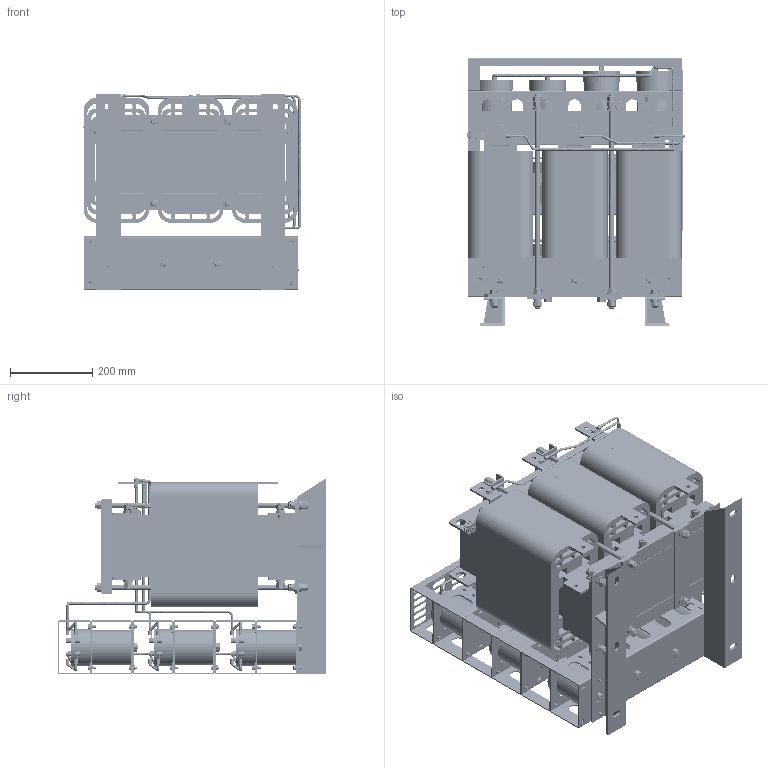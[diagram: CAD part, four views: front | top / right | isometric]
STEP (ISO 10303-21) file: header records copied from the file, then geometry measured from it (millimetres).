
FILE_DESCRIPTION(('STEP AP203'), '1');
FILE_NAME('蔓躅漤铋 耔眢耥 翳朦蝠 _ ISINOF-280_340-6', '', ('UNSPECIFIED'), ('UNSPECIFIED'), 'C3D Converter', 'C3D Toolkit', '');
FILE_SCHEMA(('CONFIG_CONTROL_DESIGN'));
Length unit declared in the file: millimetre
Products named in the file (52): ISINOF-280/340-6; L1 L2 L3МщЦЅ; L1ЎЇ L2Ўｮ L3ЎЇМщЦЅ; M12x210; M12x520; RNB14-6S; UРНС№Мх 50x25x4; 吒X2\0425\X0\86-125; 吒X2\0425\X0\86-145; 琵X2\04270405041504230422\X0\; 琵X2\04270405041504270443\X0\; 琵X2\0428\X0\崤X2\043A\X0\; 琵X2\04370418042D0426\X0\吭X2\04560415\X0\; 愧X2\0437\X0\琵X2\0410\X0\ іЕМх; №么X2\04270426041C0445\X0\12x10x260; ї琵X2\041E\X0\做зЧУKV223-2P; А降еМх450-80-2; А降еМх琵X2\0436\X0\豹X2\0435\X0\80-98-2; ДЪДёЕЕ40x5; ЖЅ豹X2\043504560415\X0\豹X2\0435\X0\ 12X30X260; ЖЅ豹X2\043504560415\X0\豹X2\0435\X0\20X50X260; ИэПаМъРѕ440-450-136; ЙПјРјю-560ЎБ80ЎБ6; НвДёЕЕ40x5; ПВјРјю490ЎБ80ЎБ40; ПВјРјю-490ЎБ80ЎБ40 јУЅУ琵X2\042804570427\X0\; С№豹X2\0435\X0\; ПЯИ¦340A; plain washers--product grade c gb_GB_FASTENER_WASHER_SMWC 12; spring lock washers--normal type gb_GB_FASTENER_WASHER_SW 12; hexagon nuts grade c gb_GB_FASTENER_NUT_SNC1 M12-N; hex head bolts-full thread grade c gb_GB_FASTENER_BOLT_HHBFTC M12X35-N; plain washers--product grade c gb_GB_FASTENER_WASHER_SMWC 6; hex head bolts-full thread grade c gb_GB_FASTENER_BOLT_HHBFTC M6X12-N; spring lock washers--normal type gb_GB_FASTENER_WASHER_SW 6; hexagon nuts grade c gb_GB_FASTENER_NUT_SNC1 M6-N; hex head bolts-full thread grade c gb_GB_FASTENER_BOLT_HHBFTC M6X20-N; Cable_3-ИэПаХэПТІЁВЛІЁЖчSKS-SF-0340-6AЈЇ05; 琵X2\043704100412\X0\^Cable_3-ИэПаХэПТІЁВЛІЁЖчSKS-SF-0340-6AЈЇ05; Cable_4-ИэПаХэПТІЁВЛІЁЖчSKS-SF-0340-6AЈЇ05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
Assembly tree (396 placements, depth 3):
  ISINOF-280/340-6
    L1 L2 L3МщЦЅ
    L1ЎЇ L2Ўｮ L3ЎЇМщЦЅ
    M12x210  x6
    M12x520  x4
    RNB14-6S  x27
    UРНС№Мх 50x25x4  x2
    吒X2\0425\X0\86-125  x6
    吒X2\0425\X0\86-145  x6
    琵X2\04270405041504230422\X0\
    琵X2\04270405041504270443\X0\
    琵X2\0428\X0\崤X2\043A\X0\
    琵X2\04370418042D0426\X0\吭X2\04560415\X0\  x4
    愧X2\0437\X0\琵X2\0410\X0\ іЕМх  x12
    №么X2\04270426041C0445\X0\12x10x260  x24
    ї琵X2\041E\X0\做зЧУKV223-2P
    А降еМх450-80-2  x6
    А降еМх琵X2\0436\X0\豹X2\0435\X0\80-98-2  x8
    ДЪДёЕЕ40x5  x3
    ЖЅ豹X2\043504560415\X0\豹X2\0435\X0\ 12X30X260  x12
    ЖЅ豹X2\043504560415\X0\豹X2\0435\X0\20X50X260  x6
    ИэПаМъРѕ440-450-136
    ЙПјРјю-560ЎБ80ЎБ6  x2
    НвДёЕЕ40x5  x3
    ПВјРјю490ЎБ80ЎБ40
    ПВјРјю-490ЎБ80ЎБ40 јУЅУ琵X2\042804570427\X0\
    С№豹X2\0435\X0\  x2
    ПЯИ¦340A  x3
    plain washers--product grade c gb_GB_FASTENER_WASHER_SMWC 12  x48
    spring lock washers--normal type gb_GB_FASTENER_WASHER_SW 12  x24
    hexagon nuts grade c gb_GB_FASTENER_NUT_SNC1 M12-N  x44
    hex head bolts-full thread grade c gb_GB_FASTENER_BOLT_HHBFTC M12X35-N  x4
    plain washers--product grade c gb_GB_FASTENER_WASHER_SMWC 6  x54
    hex head bolts-full thread grade c gb_GB_FASTENER_BOLT_HHBFTC M6X12-N  x9
    spring lock washers--normal type gb_GB_FASTENER_WASHER_SW 6  x3
    hexagon nuts grade c gb_GB_FASTENER_NUT_SNC1 M6-N  x3
    hex head bolts-full thread grade c gb_GB_FASTENER_BOLT_HHBFTC M6X20-N  x3
    Cable_3-ИэПаХэПТІЁВЛІЁЖчSKS-SF-0340-6AЈЇ05
      琵X2\043704100412\X0\^Cable_3-ИэПаХэПТІЁВЛІЁЖчSKS-SF-0340-6AЈЇ05
    Cable_4-ИэПаХэПТІЁВЛІЁЖчSKS-SF-0340-6AЈЇ05
      琵X2\043704100412\X0\^Cable_4-ИэПаХэПТІЁВЛІЁЖчSKS-SF-0340-6AЈЇ05
    Cable_5-ИэПаХэПТІЁВЛІЁЖчSKS-SF-0340-6AЈЇ05
      琵X2\043704100412\X0\^Cable_5-ИэПаХэПТІЁВЛІЁЖчSKS-SF-0340-6AЈЇ05
    hex head bolts-full thread grade c gb_GB_FASTENER_BOLT_HHBFTC M6X16-N  x39
    琵X2\04370418042D0458042C\X0\2  x3
    ёЗЧУ (2)
    Cable_6-ИэПаХэПТІЁВЛІЁЖчSKS-SF-0340-6AЈЇ05  x3
      琵X2\043704100412\X0\^Cable_6-ИэПаХэПТІЁВЛІЁЖчSKS-SF-0340-6AЈЇ05
    Cable_7-ИэПаХэПТІЁВЛІЁЖчSKS-SF-0340-6AЈЇ05  x3
      琵X2\043704100412\X0\^Cable_7-ИэПаХэПТІЁВЛІЁЖчSKS-SF-0340-6AЈЇ05
    Cable_8-ИэПаХэПТІЁВЛІЁЖчSKS-SF-0340-6AЈЇ05
      琵X2\043704100412\X0\^Cable_8-ИэПаХэПТІЁВЛІЁЖчSKS-SF-0340-6AЈЇ05
Bounding box: 528.19 x 650 x 476 mm (x, y, z)
Volume: 55832403 mm3; surface area: 9377352.3 mm2
Topology: 471 solids, 471 shells, 5763 faces, 13025 edges, 8461 vertices
Faces by surface type: plane 3375, cylinder 1669, cone 606, bspline 89, torus 24
Full cylindrical faces by diameter (mm): 3 x2, 3.8 x2, 4 x4, 4.917 x3, 6 x149, 6.2 x27, 6.4 x27, 6.6 x54, 6.68 x3, 8 x18, 9.88 x3, 10.106 x44, 11 x8, 12 x100, 12.5 x24, 12.9 x24, 13.5 x48, 14 x50, 18.2 x1, 19 x1, 19.1 x24, 20 x1, 24 x48, 25 x4, 31.5 x6, 37.5 x6, 84 x6, 86 x18, 90 x24
Entity records: 96574 total; most frequent: CARTESIAN_POINT 35377, DIRECTION 8296, ORIENTED_EDGE 7462, EDGE_CURVE 3731, AXIS2_PLACEMENT_3D 2963, VERTEX_POINT 2584, LINE 2370, VECTOR 2370
